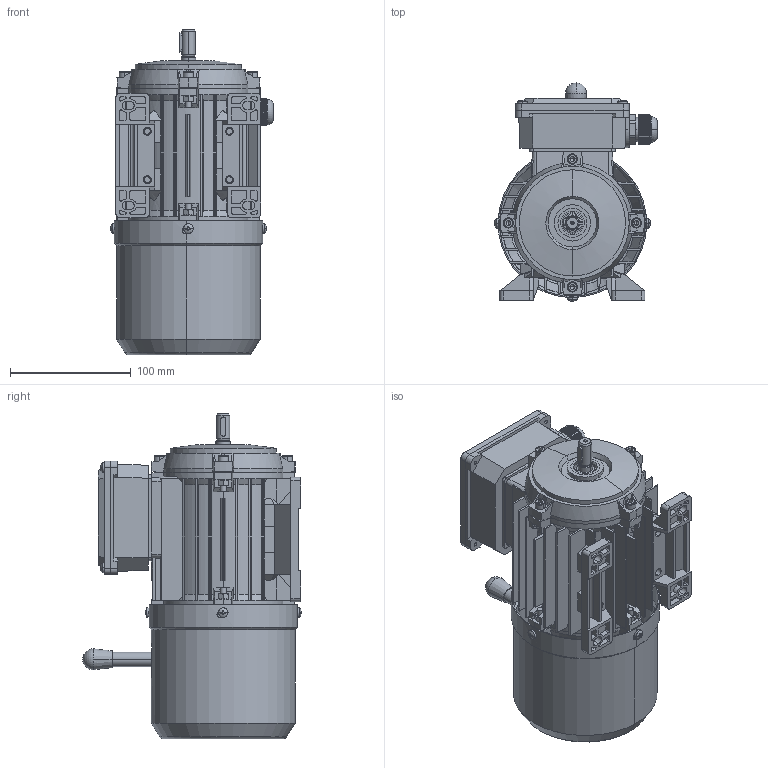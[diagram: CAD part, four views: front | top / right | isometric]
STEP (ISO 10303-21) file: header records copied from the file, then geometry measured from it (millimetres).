
FILE_DESCRIPTION (( 'STEP AP214' ), '1' );
FILE_NAME ('BCL0018.06B203.11.STEP', '2020-04-22T10:34:10', ( '' ), ( '' ), 'SwSTEP 2.0', 'SolidWorks 2019', '' );
FILE_SCHEMA (( 'AUTOMOTIVE_DESIGN' ));
Length unit declared in the file: millimetre
Products named in the file (1): BCL0018.06B203.11
Bounding box: 135.05 x 180.87 x 269.44 mm (x, y, z)
Volume: 544371.2 mm3; surface area: 429320.5 mm2
Topology: 36 solids, 36 shells, 2569 faces, 6862 edges, 4417 vertices
Faces by surface type: plane 1624, cylinder 601, cone 221, torus 49, bspline 40, sphere 34
Entity records: 114922 total; most frequent: CARTESIAN_POINT 22645, ORIENTED_EDGE 13652, DIRECTION 12640, EDGE_CURVE 6826, VERTEX_POINT 4415, AXIS2_PLACEMENT_3D 4231, VECTOR 4178, LINE 4178
